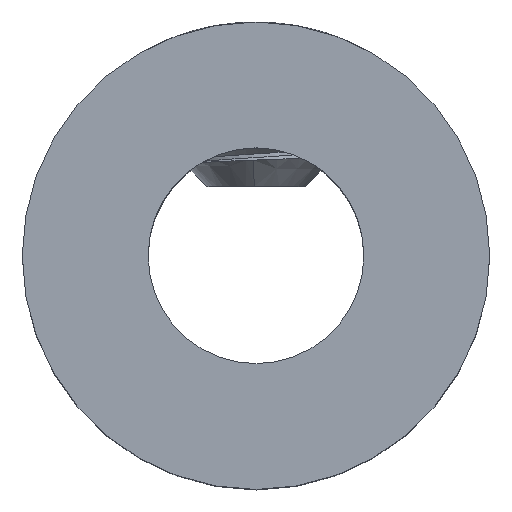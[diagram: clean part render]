
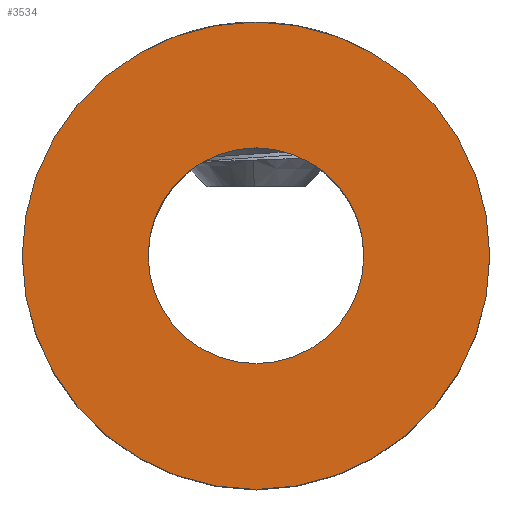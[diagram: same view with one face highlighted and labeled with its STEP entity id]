
A CAD part, top view. The second image highlights one B-rep face of the part: STEP entity #3534.
In plain terms, the highlighted planar face has unit normal (0, 0, 1).
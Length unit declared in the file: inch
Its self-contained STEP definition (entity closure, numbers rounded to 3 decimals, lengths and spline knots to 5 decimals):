
#110 = EDGE_CURVE ( 'NONE', #5227, #527, #1750, .T. ) ;
#121 = VERTEX_POINT ( 'NONE', #2218 ) ;
#149 = CIRCLE ( 'NONE', #1756, 0.25591 ) ;
#242 = EDGE_CURVE ( 'NONE', #121, #3276, #4959, .T. ) ;
#527 = VERTEX_POINT ( 'NONE', #902 ) ;
#583 = CARTESIAN_POINT ( 'NONE',  ( 0., 0., 0. ) ) ;
#761 = DIRECTION ( 'NONE',  ( 1., 0., 0. ) ) ;
#865 = AXIS2_PLACEMENT_3D ( 'NONE', #2781, #4396, #761 ) ;
#902 = CARTESIAN_POINT ( 'NONE',  ( -0.25591, 0., 0. ) ) ;
#1077 = ORIENTED_EDGE ( 'NONE', *, *, #1558, .F. ) ;
#1099 = DIRECTION ( 'NONE',  ( 0., 0., 1. ) ) ;
#1215 = CARTESIAN_POINT ( 'NONE',  ( 0., 0., 0. ) ) ;
#1345 = CARTESIAN_POINT ( 'NONE',  ( 0., 0., 0. ) ) ;
#1466 = AXIS2_PLACEMENT_3D ( 'NONE', #1215, #2747, #1696 ) ;
#1558 = EDGE_CURVE ( 'NONE', #3276, #121, #3981, .T. ) ;
#1583 = DIRECTION ( 'NONE',  ( 1., 0., 0. ) ) ;
#1696 = DIRECTION ( 'NONE',  ( 1., 0., 0. ) ) ;
#1720 = FACE_OUTER_BOUND ( 'NONE', #4039, .T. ) ;
#1750 = CIRCLE ( 'NONE', #1466, 0.25591 ) ;
#1756 = AXIS2_PLACEMENT_3D ( 'NONE', #583, #1099, #1583 ) ;
#1801 = ORIENTED_EDGE ( 'NONE', *, *, #110, .T. ) ;
#1876 = FACE_BOUND ( 'NONE', #4591, .T. ) ;
#2156 = CARTESIAN_POINT ( 'NONE',  ( 0., 0., 0. ) ) ;
#2218 = CARTESIAN_POINT ( 'NONE',  ( -0.11811, 0., 0. ) ) ;
#2667 = DIRECTION ( 'NONE',  ( 0., 0., 1. ) ) ;
#2747 = DIRECTION ( 'NONE',  ( 0., 0., 1. ) ) ;
#2781 = CARTESIAN_POINT ( 'NONE',  ( 0., 0., 0. ) ) ;
#2790 = DIRECTION ( 'NONE',  ( 1., 0., 0. ) ) ;
#2919 = AXIS2_PLACEMENT_3D ( 'NONE', #1345, #5396, #2790 ) ;
#3082 = EDGE_CURVE ( 'NONE', #527, #5227, #149, .T. ) ;
#3220 = DIRECTION ( 'NONE',  ( 1., 0., 0. ) ) ;
#3276 = VERTEX_POINT ( 'NONE', #3582 ) ;
#3534 = ADVANCED_FACE ( 'NONE', ( #1720, #1876 ), #6357, .T. ) ;
#3582 = CARTESIAN_POINT ( 'NONE',  ( 0.11811, 0., 0. ) ) ;
#3981 = CIRCLE ( 'NONE', #5952, 0.11811 ) ;
#4039 = EDGE_LOOP ( 'NONE', ( #1801, #4925 ) ) ;
#4104 = CARTESIAN_POINT ( 'NONE',  ( 0.25591, 0., 0. ) ) ;
#4231 = ORIENTED_EDGE ( 'NONE', *, *, #242, .F. ) ;
#4396 = DIRECTION ( 'NONE',  ( 0., 0., 1. ) ) ;
#4591 = EDGE_LOOP ( 'NONE', ( #1077, #4231 ) ) ;
#4925 = ORIENTED_EDGE ( 'NONE', *, *, #3082, .T. ) ;
#4959 = CIRCLE ( 'NONE', #2919, 0.11811 ) ;
#5227 = VERTEX_POINT ( 'NONE', #4104 ) ;
#5396 = DIRECTION ( 'NONE',  ( 0., 0., 1. ) ) ;
#5952 = AXIS2_PLACEMENT_3D ( 'NONE', #2156, #2667, #3220 ) ;
#6357 = PLANE ( 'NONE',  #865 ) ;
